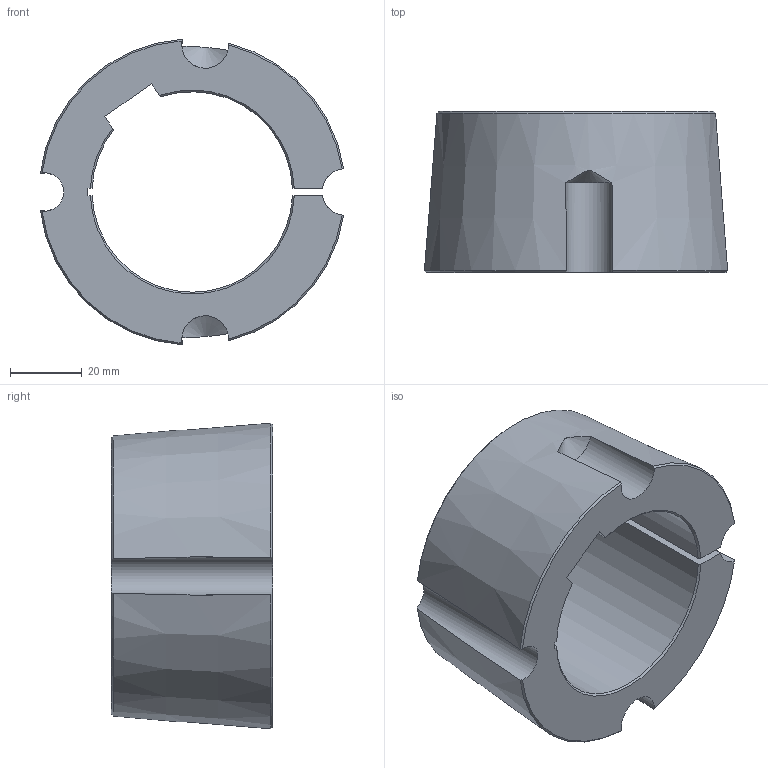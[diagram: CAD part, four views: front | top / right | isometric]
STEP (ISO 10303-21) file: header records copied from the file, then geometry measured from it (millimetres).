
FILE_DESCRIPTION(/* description */ (''),/* implementation_level */ '2;1');
FILE_NAME(/* name */ '\\emc\Varie\PROGETTO SCUOLA\29\BUSSOLE CONICHE-3d\29251755.stp',/* time_stamp */ '2017-12-27T10:44:01+01:00',/* author */ ('stagistacad'),/* organization */ (''),/* preprocessor_version */ 'ST-DEVELOPER v15.6',/* originating_system */ 'Autodesk Inventor 2015',/* authorisation */ '');
FILE_SCHEMA (('AUTOMOTIVE_DESIGN { 1 0 10303 214 3 1 1 }'));
Length unit declared in the file: millimetre
Products named in the file (1): 29251755
Bounding box: 84.75 x 45 x 85.39 mm (x, y, z)
Volume: 116072.6 mm3; surface area: 26426 mm2
Topology: 1 solids, 1 shells, 34 faces, 96 edges, 64 vertices
Faces by surface type: cone 16, plane 10, cylinder 8
Entity records: 1216 total; most frequent: CARTESIAN_POINT 353, ORIENTED_EDGE 192, DIRECTION 166, EDGE_CURVE 96, AXIS2_PLACEMENT_3D 69, VERTEX_POINT 64, FACE_OUTER_BOUND 34, EDGE_LOOP 34
